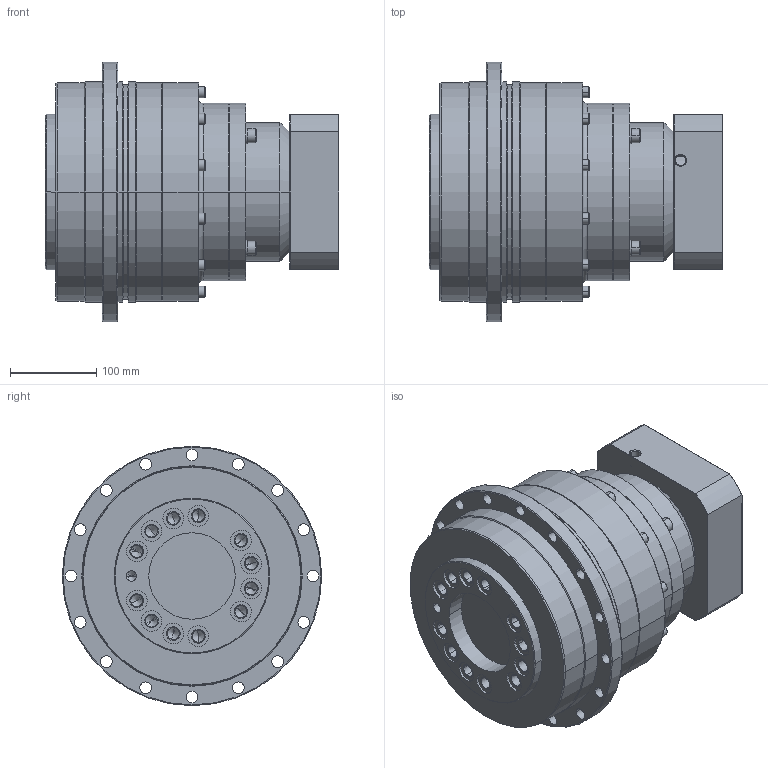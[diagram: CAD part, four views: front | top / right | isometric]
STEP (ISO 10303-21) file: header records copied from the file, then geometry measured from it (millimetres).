
FILE_DESCRIPTION((''),'2;1');
FILE_NAME('AD2552-P4160201_ASM','2006-05-23T',('D00080'),(''),'PRO/ENGINEER BY PARAMETRIC TECHNOLOGY CORPORATION, 2001280','PRO/ENGINEER BY PARAMETRIC TECHNOLOGY CORPORATION, 2001280','');
FILE_SCHEMA(('CONFIG_CONTROL_DESIGN'));
Length unit declared in the file: millimetre
Products named in the file (10): AD255-2; PH270001; 220120813; AD_RING_GEAR-SET2-7_ASM; PK760001; 233100006; 220100906; AD-COVER-SET-6_ASM; P4160201; AD2552-P4160201_ASM
Assembly tree (26 placements, depth 3):
  AD2552-P4160201_ASM
    AD255-2
    AD_RING_GEAR-SET2-7_ASM
      PH270001
      220120813  x12
    AD-COVER-SET-6_ASM
      PK760001
      233100006  x4
      220100906  x4
    P4160201
Bounding box: 339.5 x 300 x 300 mm (x, y, z)
Volume: 12656985 mm3; surface area: 796791.5 mm2
Topology: 24 solids, 57 shells, 1154 faces, 2595 edges, 1547 vertices
Faces by surface type: cylinder 475, plane 355, cone 258, torus 66
Entity records: 20408 total; most frequent: DIRECTION 3917, CARTESIAN_POINT 3644, ORIENTED_EDGE 3006, AXIS2_PLACEMENT_3D 1651, EDGE_CURVE 1569, VERTEX_POINT 991, CIRCLE 899, EDGE_LOOP 870
